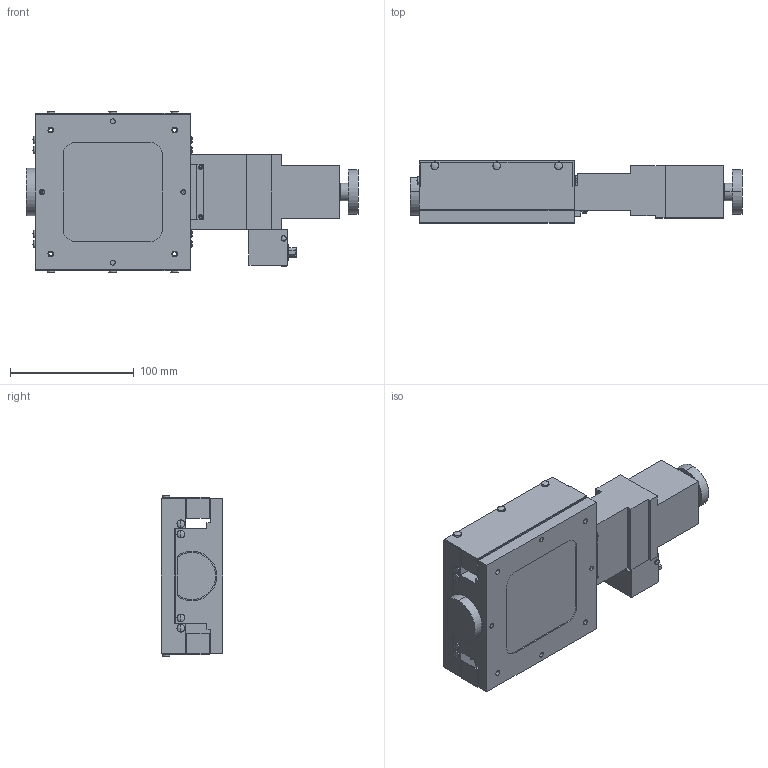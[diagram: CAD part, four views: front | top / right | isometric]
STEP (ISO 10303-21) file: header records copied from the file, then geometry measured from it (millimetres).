
FILE_DESCRIPTION (( 'STEP AP203' ), '1' );
FILE_NAME ('ALS-106-H1PC.STEP', '2016-05-26T07:22:03', ( '' ), ( '' ), 'SwSTEP 2.0', 'SolidWorks 2011', '' );
FILE_SCHEMA (( 'CONFIG_CONTROL_DESIGN' ));
Length unit declared in the file: millimetre
Products named in the file (3): ALS-106-H1PC; ALS-106-H1PC-2; ALS-106-H1PC-1
Assembly tree (2 placements, depth 2):
  ALS-106-H1PC
    ALS-106-H1PC-2
    ALS-106-H1PC-1
Bounding box: 268 x 50 x 130.65 mm (x, y, z)
Volume: 908352 mm3; surface area: 148392.2 mm2
Topology: 2 solids, 4 shells, 461 faces, 1131 edges, 732 vertices
Faces by surface type: plane 207, cylinder 171, cone 50, sphere 20, bspline 9, torus 4
Entity records: 15760 total; most frequent: CARTESIAN_POINT 4162, DIRECTION 2467, ORIENTED_EDGE 2238, EDGE_CURVE 1119, AXIS2_PLACEMENT_3D 909, VERTEX_POINT 732, LINE 649, VECTOR 649
